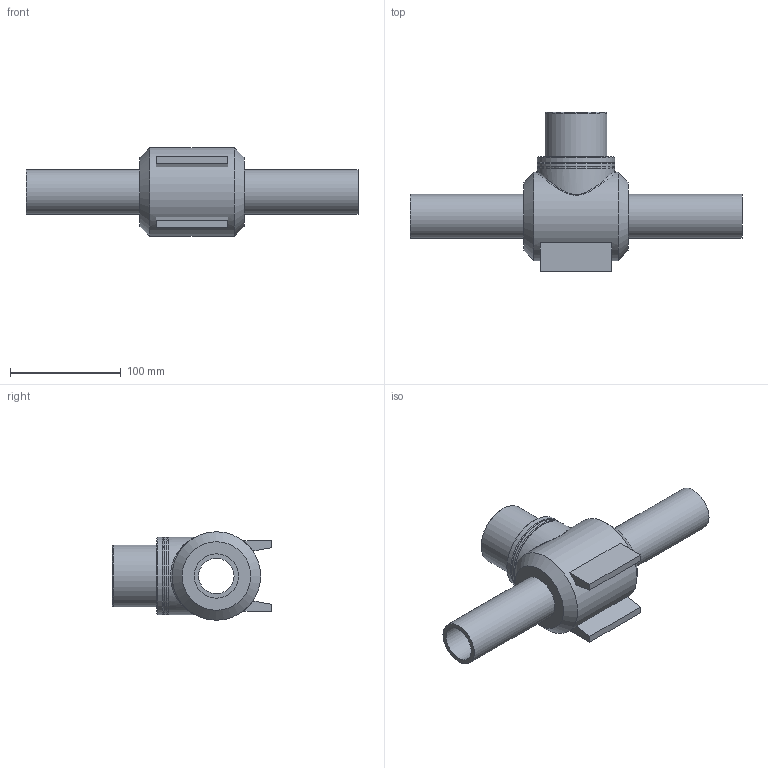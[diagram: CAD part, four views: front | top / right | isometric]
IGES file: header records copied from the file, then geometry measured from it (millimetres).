
Global section: file name: 436207040.ipt; native system: Autodesk Inventor 2015; preprocessor: unknown; author: Кирилл,,11,0; organization: 20170828.110610; date: 20171001.144232; units: millimetre
Bounding box: 300 x 144 x 80 mm (x, y, z)
Volume: 593552.9 mm3; surface area: 106934.7 mm2
Topology: 1 solids, 1 shells, 33 faces, 81 edges, 54 vertices
Faces by surface type: plane 16, cylinder 7, cone 4, revolution 4, bspline 2
Full cylindrical faces by diameter (mm): 40 x2, 56 x1, 70 x3, 80 x1
